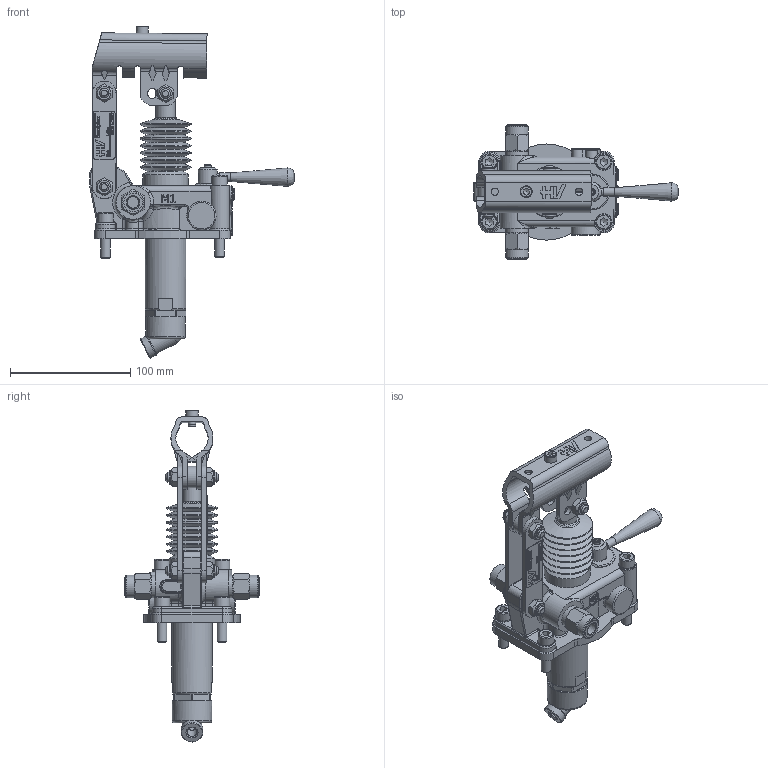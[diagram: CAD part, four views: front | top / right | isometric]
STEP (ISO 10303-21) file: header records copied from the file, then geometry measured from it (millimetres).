
FILE_DESCRIPTION((''),'2;1');
FILE_NAME('G:\HV_HYDRAULIC\AZIENDA_HV_HYDRAULIC\ARCHIVIO_DISEGNI\5_PRODOTTI_FINITI\1_POMPE_MANUALI\6061_PMDVB_25\6061.0301_PMDVB_25_ca-s_(HV)\6061.0301.stp','2024-03-07T14:58:32',('christian.scardovi'),(''),'Autodesk Inventor 2013','Autodesk Inventor 2013','');
FILE_SCHEMA(('AUTOMOTIVE_DESIGN { 1 0 10303 214 1 1 1 1 }'));
Length unit declared in the file: millimetre
Products named in the file (1): 6061.0301
Bounding box: 170 x 112 x 276.08 mm (x, y, z)
Volume: 460072.4 mm3; surface area: 130094.7 mm2
Topology: 3 solids, 3 shells, 1684 faces, 4297 edges, 2720 vertices
Faces by surface type: plane 809, cylinder 372, cone 191, bspline 184, torus 115, sphere 13
Full cylindrical faces by diameter (mm): 1.2 x4, 3 x6, 4 x4, 4.917 x13, 5 x12, 6 x8, 6.5 x3, 6.917 x2, 7 x3, 8 x15, 9 x3, 9.2 x1, 10 x13, 10.376 x1, 10.5 x2, 10.917 x2, 11.05 x6, 11.445 x2, 12 x7, 13 x4, 13.2 x1, 14 x4, 14.95 x2, 15.5 x2, 15.9 x2, 16 x5, 17.6 x1, 18 x4, 19 x4, 22 x1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
Entity records: 52840 total; most frequent: CARTESIAN_POINT 14059, ORIENTED_EDGE 7634, DIRECTION 7144, EDGE_CURVE 3817, AXIS2_PLACEMENT_3D 2581, VERTEX_POINT 2567, EDGE_LOOP 2157, VECTOR 1982
